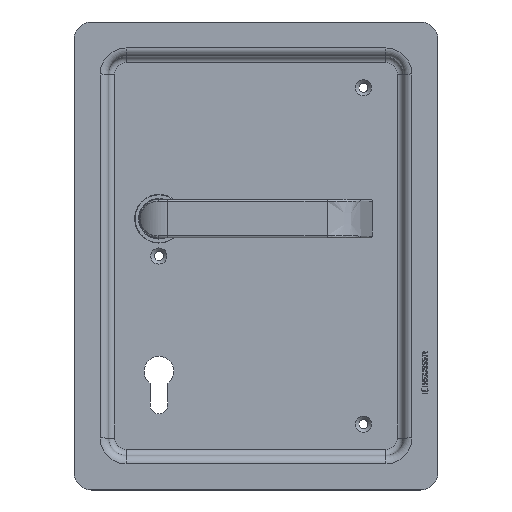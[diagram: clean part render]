
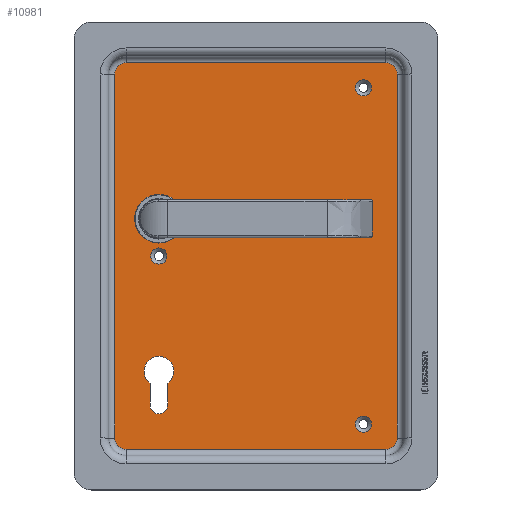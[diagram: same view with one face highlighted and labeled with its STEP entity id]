
A CAD part, top view. The second image highlights one B-rep face of the part: STEP entity #10981.
In plain terms, the highlighted planar face has unit normal (0, 0, 1).
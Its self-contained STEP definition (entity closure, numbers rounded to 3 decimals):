
#691=LINE('',#14758,#1652);
#692=LINE('',#14766,#1653);
#694=LINE('',#14778,#1655);
#697=LINE('',#14790,#1658);
#801=LINE('',#15363,#1762);
#802=LINE('',#15366,#1763);
#1652=VECTOR('',#12451,10.);
#1653=VECTOR('',#12462,10.);
#1655=VECTOR('',#12476,10.);
#1658=VECTOR('',#12491,10.);
#1762=VECTOR('',#12801,10.);
#1763=VECTOR('',#12804,10.);
#2695=FACE_BOUND('',#3494,.T.);
#2696=FACE_BOUND('',#3495,.T.);
#2697=FACE_BOUND('',#3496,.T.);
#2698=FACE_BOUND('',#3497,.T.);
#2699=FACE_BOUND('',#3498,.T.);
#2844=FACE_OUTER_BOUND('',#3493,.T.);
#3493=EDGE_LOOP('',(#7370,#7371,#7372,#7373,#7374,#7375,#7376,#7377));
#3494=EDGE_LOOP('',(#7378));
#3495=EDGE_LOOP('',(#7379,#7380,#7381,#7382));
#3496=EDGE_LOOP('',(#7383));
#3497=EDGE_LOOP('',(#7384));
#3498=EDGE_LOOP('',(#7385));
#4137=CIRCLE('',#11614,6.5);
#4140=CIRCLE('',#11619,6.5);
#4143=CIRCLE('',#11624,6.5);
#4147=CIRCLE('',#11630,6.5);
#4192=CIRCLE('',#11731,4.65);
#4193=CIRCLE('',#11733,4.65);
#4194=CIRCLE('',#11735,14.);
#4195=CIRCLE('',#11736,8.6);
#4196=CIRCLE('',#11737,5.1);
#4197=CIRCLE('',#11738,4.65);
#4345=VERTEX_POINT('',#14751);
#4346=VERTEX_POINT('',#14753);
#4347=VERTEX_POINT('',#14757);
#4348=VERTEX_POINT('',#14761);
#4349=VERTEX_POINT('',#14765);
#4351=VERTEX_POINT('',#14771);
#4353=VERTEX_POINT('',#14777);
#4355=VERTEX_POINT('',#14783);
#4529=VERTEX_POINT('',#15351);
#4530=VERTEX_POINT('',#15354);
#4531=VERTEX_POINT('',#15357);
#4532=VERTEX_POINT('',#15359);
#4533=VERTEX_POINT('',#15360);
#4534=VERTEX_POINT('',#15362);
#4535=VERTEX_POINT('',#15364);
#4536=VERTEX_POINT('',#15367);
#5406=EDGE_CURVE('',#4346,#4345,#4137,.T.);
#5408=EDGE_CURVE('',#4347,#4346,#691,.T.);
#5410=EDGE_CURVE('',#4348,#4347,#4140,.T.);
#5412=EDGE_CURVE('',#4349,#4348,#692,.T.);
#5415=EDGE_CURVE('',#4351,#4349,#4143,.T.);
#5418=EDGE_CURVE('',#4353,#4351,#694,.T.);
#5421=EDGE_CURVE('',#4355,#4353,#4147,.T.);
#5425=EDGE_CURVE('',#4345,#4355,#697,.T.);
#5631=EDGE_CURVE('',#4529,#4529,#4192,.T.);
#5632=EDGE_CURVE('',#4530,#4530,#4193,.T.);
#5633=EDGE_CURVE('',#4531,#4531,#4194,.T.);
#5634=EDGE_CURVE('',#4532,#4533,#4195,.T.);
#5635=EDGE_CURVE('',#4533,#4534,#801,.T.);
#5636=EDGE_CURVE('',#4534,#4535,#4196,.T.);
#5637=EDGE_CURVE('',#4535,#4532,#802,.T.);
#5638=EDGE_CURVE('',#4536,#4536,#4197,.T.);
#7370=ORIENTED_EDGE('',*,*,#5425,.T.);
#7371=ORIENTED_EDGE('',*,*,#5421,.T.);
#7372=ORIENTED_EDGE('',*,*,#5418,.T.);
#7373=ORIENTED_EDGE('',*,*,#5415,.T.);
#7374=ORIENTED_EDGE('',*,*,#5412,.T.);
#7375=ORIENTED_EDGE('',*,*,#5410,.T.);
#7376=ORIENTED_EDGE('',*,*,#5408,.T.);
#7377=ORIENTED_EDGE('',*,*,#5406,.T.);
#7378=ORIENTED_EDGE('',*,*,#5633,.T.);
#7379=ORIENTED_EDGE('',*,*,#5634,.T.);
#7380=ORIENTED_EDGE('',*,*,#5635,.T.);
#7381=ORIENTED_EDGE('',*,*,#5636,.T.);
#7382=ORIENTED_EDGE('',*,*,#5637,.T.);
#7383=ORIENTED_EDGE('',*,*,#5632,.F.);
#7384=ORIENTED_EDGE('',*,*,#5631,.F.);
#7385=ORIENTED_EDGE('',*,*,#5638,.F.);
#10012=PLANE('',#11734);
#10981=ADVANCED_FACE('',(#2844,#2695,#2696,#2697,#2698,#2699),#10012,.F.);
#11614=AXIS2_PLACEMENT_3D('',#14754,#12445,#12446);
#11619=AXIS2_PLACEMENT_3D('',#14762,#12456,#12457);
#11624=AXIS2_PLACEMENT_3D('',#14772,#12468,#12469);
#11630=AXIS2_PLACEMENT_3D('',#14784,#12482,#12483);
#11731=AXIS2_PLACEMENT_3D('',#15352,#12789,#12790);
#11733=AXIS2_PLACEMENT_3D('',#15355,#12793,#12794);
#11734=AXIS2_PLACEMENT_3D('',#15356,#12795,#12796);
#11735=AXIS2_PLACEMENT_3D('',#15358,#12797,#12798);
#11736=AXIS2_PLACEMENT_3D('',#15361,#12799,#12800);
#11737=AXIS2_PLACEMENT_3D('',#15365,#12802,#12803);
#11738=AXIS2_PLACEMENT_3D('',#15368,#12805,#12806);
#12445=DIRECTION('center_axis',(0.,0.,
1.));
#12446=DIRECTION('ref_axis',(-0.707,-0.707,0.));
#12451=DIRECTION('',(0.,-1.,0.));
#12456=DIRECTION('center_axis',(0.,0.,
1.));
#12457=DIRECTION('ref_axis',(-0.707,0.707,0.));
#12462=DIRECTION('',(-1.,0.,0.));
#12468=DIRECTION('center_axis',(0.,0.,
1.));
#12469=DIRECTION('ref_axis',(0.707,0.707,0.));
#12476=DIRECTION('',(0.,1.,0.));
#12482=DIRECTION('center_axis',(0.,0.,
1.));
#12483=DIRECTION('ref_axis',(0.707,-0.707,0.));
#12491=DIRECTION('',(1.,0.,0.));
#12789=DIRECTION('center_axis',(0.,0.,
1.));
#12790=DIRECTION('ref_axis',(-1.,0.,0.));
#12793=DIRECTION('center_axis',(0.,0.,
1.));
#12794=DIRECTION('ref_axis',(-1.,0.,0.));
#12795=DIRECTION('center_axis',(0.,0.,
-1.));
#12796=DIRECTION('ref_axis',(-1.,0.,0.));
#12797=DIRECTION('center_axis',(0.,0.,
-1.));
#12798=DIRECTION('ref_axis',(0.,1.,0.));
#12799=DIRECTION('center_axis',(0.,0.,
-1.));
#12800=DIRECTION('ref_axis',(-0.593,0.805,0.));
#12801=DIRECTION('',(0.,-1.,0.));
#12802=DIRECTION('center_axis',(0.,0.,
-1.));
#12803=DIRECTION('ref_axis',(1.,0.,0.));
#12804=DIRECTION('',(0.,1.,0.));
#12805=DIRECTION('center_axis',(0.,0.,
1.));
#12806=DIRECTION('ref_axis',(-1.,0.,0.));
#14751=CARTESIAN_POINT('',(-77.269,-100.155,-5.503));
#14753=CARTESIAN_POINT('',(-83.769,-93.655,-5.503));
#14754=CARTESIAN_POINT('Origin',(-77.269,-93.655,-5.503));
#14757=CARTESIAN_POINT('',(-83.769,116.345,-5.503));
#14758=CARTESIAN_POINT('',(-83.769,63.845,-5.503));
#14761=CARTESIAN_POINT('',(-77.269,122.845,-5.503));
#14762=CARTESIAN_POINT('Origin',(-77.269,116.345,-5.503));
#14765=CARTESIAN_POINT('',(72.731,122.845,-5.503));
#14766=CARTESIAN_POINT('',(35.231,122.845,-5.503));
#14771=CARTESIAN_POINT('',(79.231,116.345,-5.503));
#14772=CARTESIAN_POINT('Origin',(72.731,116.345,-5.503));
#14777=CARTESIAN_POINT('',(79.231,-93.655,-5.503));
#14778=CARTESIAN_POINT('',(79.231,-41.155,-5.503));
#14783=CARTESIAN_POINT('',(72.731,-100.155,-5.503));
#14784=CARTESIAN_POINT('Origin',(72.731,-93.655,-5.503));
#14790=CARTESIAN_POINT('',(-39.769,-100.155,-5.503));
#15351=CARTESIAN_POINT('',(64.381,-85.655,-5.503));
#15352=CARTESIAN_POINT('Origin',(59.731,-85.655,-5.503));
#15354=CARTESIAN_POINT('',(-53.619,11.345,-5.503));
#15355=CARTESIAN_POINT('Origin',(-58.269,11.345,-5.503));
#15356=CARTESIAN_POINT('Origin',(-2.269,11.345,-5.503));
#15357=CARTESIAN_POINT('',(-58.269,18.845,-5.503));
#15358=CARTESIAN_POINT('Origin',(-58.269,32.845,-5.503));
#15359=CARTESIAN_POINT('',(-63.369,-62.079,-5.503));
#15360=CARTESIAN_POINT('',(-53.169,-62.079,-5.503));
#15361=CARTESIAN_POINT('Origin',(-58.269,-55.155,-5.503));
#15362=CARTESIAN_POINT('',(-53.169,-74.655,-5.503));
#15363=CARTESIAN_POINT('',(-53.169,-25.367,-5.503));
#15364=CARTESIAN_POINT('',(-63.369,-74.655,-5.503));
#15365=CARTESIAN_POINT('Origin',(-58.269,-74.655,-5.503));
#15366=CARTESIAN_POINT('',(-63.369,-31.655,-5.503));
#15367=CARTESIAN_POINT('',(64.381,108.345,-5.503));
#15368=CARTESIAN_POINT('Origin',(59.731,108.345,-5.503));
